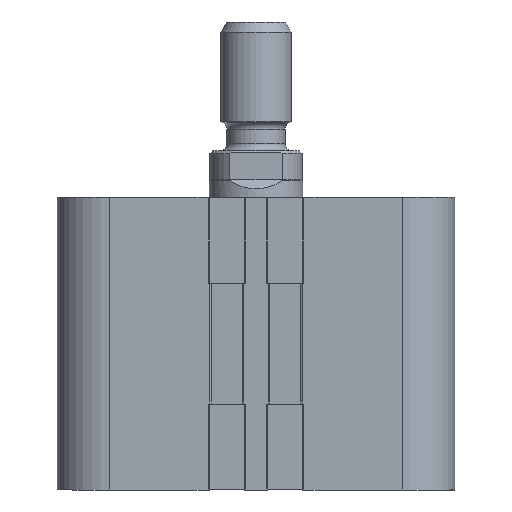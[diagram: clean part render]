
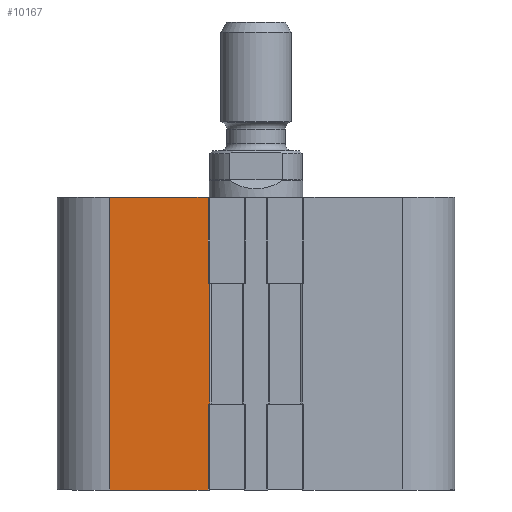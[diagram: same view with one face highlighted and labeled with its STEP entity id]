
A CAD part, front view. The second image highlights one B-rep face of the part: STEP entity #10167.
In plain terms, the highlighted planar face has unit normal (0, -1, 0).
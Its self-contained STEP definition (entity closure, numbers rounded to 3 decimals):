
#325 = CARTESIAN_POINT ( 'NONE',  ( -7.875, -34., 0. ) ) ;
#328 = CARTESIAN_POINT ( 'NONE',  ( -7.875, -34., 20.6 ) ) ;
#329 = CARTESIAN_POINT ( 'NONE',  ( -8.2, -34., 0. ) ) ;
#457 = CARTESIAN_POINT ( 'NONE',  ( -8.2, -34., 20.6 ) ) ;
#2801 = EDGE_CURVE ( 'NONE', #14785, #14786, #10511, .T. ) ;
#2909 = EDGE_CURVE ( 'NONE', #6053, #6049, #10685, .T. ) ;
#2926 = EDGE_CURVE ( 'NONE', #6181, #6052, #10716, .T. ) ;
#2940 = EDGE_CURVE ( 'NONE', #14786, #6181, #10741, .T. ) ;
#2941 = EDGE_CURVE ( 'NONE', #14785, #14610, #10743, .T. ) ;
#3240 = FACE_OUTER_BOUND ( 'NONE', #12288, .T. ) ;
#3504 = LINE ( 'NONE', #4034, #3523 ) ;
#3517 = LINE ( 'NONE', #4022, #3519 ) ;
#3519 = VECTOR ( 'NONE', #4023, 1000. ) ;
#3523 = VECTOR ( 'NONE', #4030, 1000. ) ;
#4022 = CARTESIAN_POINT ( 'NONE',  ( -7.875, -34., 20.6 ) ) ;
#4023 = DIRECTION ( 'NONE',  ( 0., 0., 1. ) ) ;
#4030 = DIRECTION ( 'NONE',  ( 0., 0., -1. ) ) ;
#4034 = CARTESIAN_POINT ( 'NONE',  ( -8.2, -34., 117.467 ) ) ;
#4958 = CARTESIAN_POINT ( 'NONE',  ( -8., -34., 35.3 ) ) ;
#4959 = DIRECTION ( 'NONE',  ( 1., 0., 0. ) ) ;
#6027 = ORIENTED_EDGE ( 'NONE', *, *, #2941, .T. ) ;
#6028 = ORIENTED_EDGE ( 'NONE', *, *, #9762, .F. ) ;
#6029 = ORIENTED_EDGE ( 'NONE', *, *, #11946, .F. ) ;
#6030 = ORIENTED_EDGE ( 'NONE', *, *, #2909, .T. ) ;
#6031 = ORIENTED_EDGE ( 'NONE', *, *, #11943, .T. ) ;
#6032 = ORIENTED_EDGE ( 'NONE', *, *, #2926, .F. ) ;
#6033 = ORIENTED_EDGE ( 'NONE', *, *, #2940, .F. ) ;
#6034 = ORIENTED_EDGE ( 'NONE', *, *, #2801, .F. ) ;
#6049 = VERTEX_POINT ( 'NONE', #325 ) ;
#6052 = VERTEX_POINT ( 'NONE', #328 ) ;
#6053 = VERTEX_POINT ( 'NONE', #329 ) ;
#6181 = VERTEX_POINT ( 'NONE', #457 ) ;
#7696 = LINE ( 'NONE', #13071, #7698 ) ;
#7698 = VECTOR ( 'NONE', #13072, 1000. ) ;
#9210 = CARTESIAN_POINT ( 'NONE',  ( -34., -34., 20.6 ) ) ;
#9215 = PLANE ( 'NONE',  #12630 ) ;
#9218 = DIRECTION ( 'NONE',  ( 0., 1., 0. ) ) ;
#9219 = DIRECTION ( 'NONE',  ( -1., 0., 0. ) ) ;
#9762 = EDGE_CURVE ( 'NONE', #14609, #14610, #7696, .T. ) ;
#10167 = ADVANCED_FACE ( 'NONE', ( #3240 ), #9215, .F. ) ;
#10511 = LINE ( 'NONE', #4958, #10513 ) ;
#10513 = VECTOR ( 'NONE', #4959, 1000. ) ;
#10685 = LINE ( 'NONE', #12070, #10692 ) ;
#10692 = VECTOR ( 'NONE', #12079, 1000. ) ;
#10716 = LINE ( 'NONE', #12113, #10718 ) ;
#10718 = VECTOR ( 'NONE', #12114, 1000. ) ;
#10741 = LINE ( 'NONE', #12145, #10746 ) ;
#10743 = LINE ( 'NONE', #12147, #10748 ) ;
#10746 = VECTOR ( 'NONE', #12150, 1000. ) ;
#10748 = VECTOR ( 'NONE', #12152, 1000. ) ;
#11546 = CARTESIAN_POINT ( 'NONE',  ( -8.2, -34., -14.7 ) ) ;
#11547 = CARTESIAN_POINT ( 'NONE',  ( -25., -34., -14.7 ) ) ;
#11722 = CARTESIAN_POINT ( 'NONE',  ( -25., -34., 35.3 ) ) ;
#11723 = CARTESIAN_POINT ( 'NONE',  ( -8.2, -34., 35.3 ) ) ;
#11943 = EDGE_CURVE ( 'NONE', #6049, #6052, #3517, .T. ) ;
#11946 = EDGE_CURVE ( 'NONE', #6053, #14609, #3504, .T. ) ;
#12070 = CARTESIAN_POINT ( 'NONE',  ( -34., -34., 0. ) ) ;
#12079 = DIRECTION ( 'NONE',  ( 1., 0., 0. ) ) ;
#12113 = CARTESIAN_POINT ( 'NONE',  ( -34., -34., 20.6 ) ) ;
#12114 = DIRECTION ( 'NONE',  ( 1., 0., 0. ) ) ;
#12145 = CARTESIAN_POINT ( 'NONE',  ( -8.2, -34., 117.467 ) ) ;
#12147 = CARTESIAN_POINT ( 'NONE',  ( -25., -34., 20.6 ) ) ;
#12150 = DIRECTION ( 'NONE',  ( 0., 0., -1. ) ) ;
#12152 = DIRECTION ( 'NONE',  ( 0., 0., -1. ) ) ;
#12288 = EDGE_LOOP ( 'NONE', ( #6027, #6028, #6029, #6030, #6031, #6032, #6033, #6034 ) ) ;
#12630 = AXIS2_PLACEMENT_3D ( 'NONE', #9210, #9218, #9219 ) ;
#13071 = CARTESIAN_POINT ( 'NONE',  ( -34., -34., -14.7 ) ) ;
#13072 = DIRECTION ( 'NONE',  ( -1., 0., 0. ) ) ;
#14609 = VERTEX_POINT ( 'NONE', #11546 ) ;
#14610 = VERTEX_POINT ( 'NONE', #11547 ) ;
#14785 = VERTEX_POINT ( 'NONE', #11722 ) ;
#14786 = VERTEX_POINT ( 'NONE', #11723 ) ;
